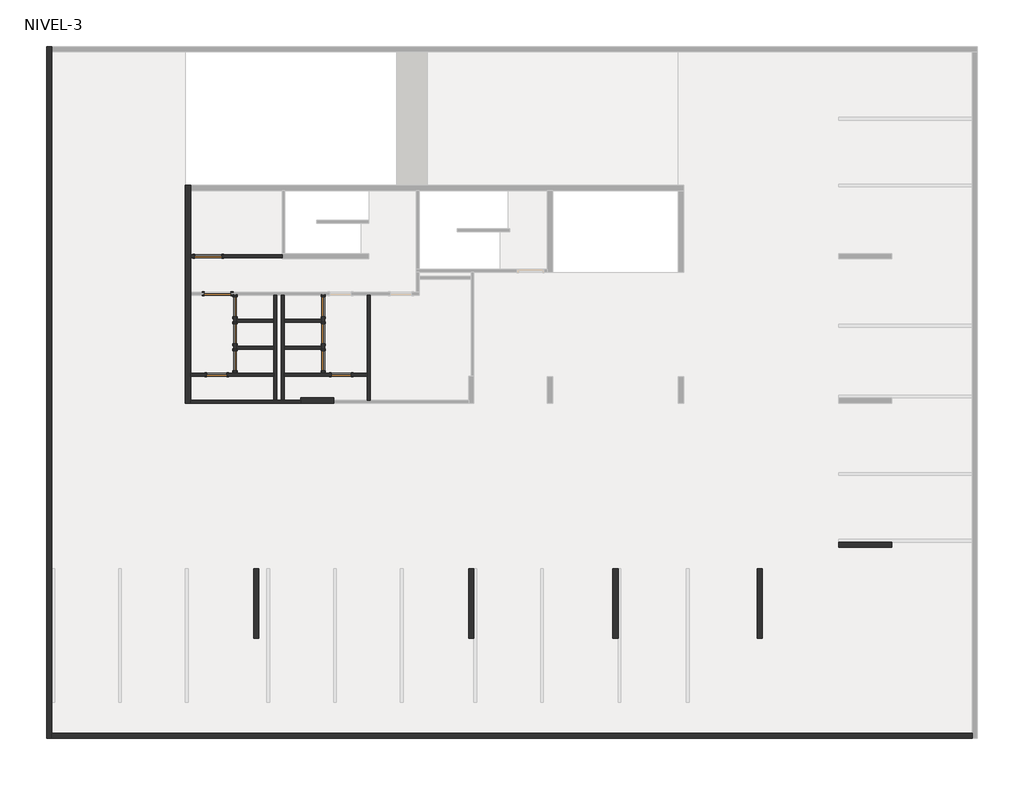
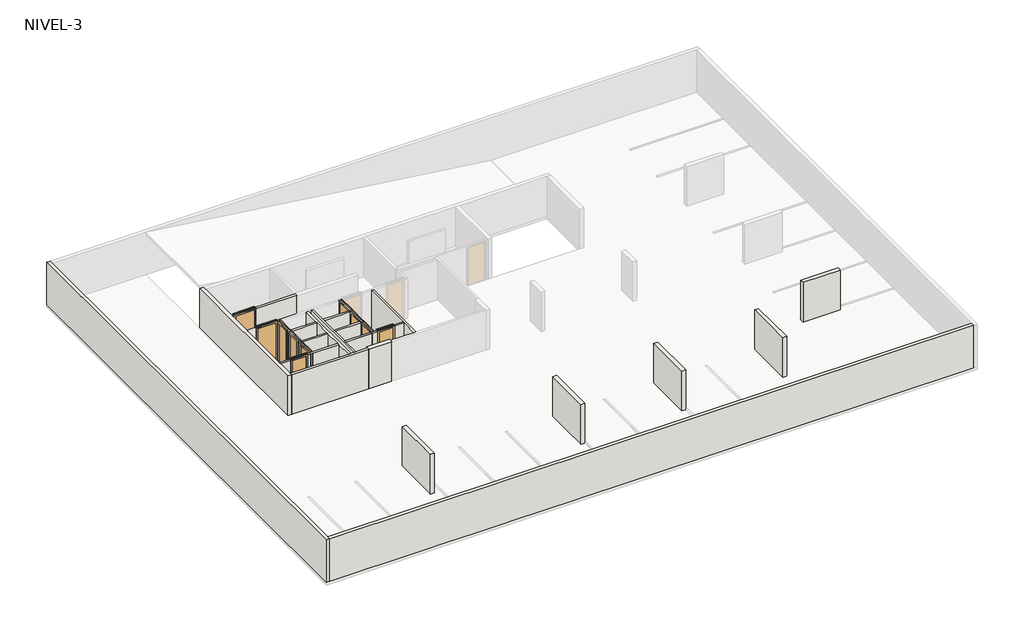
# One storey, part 1 of 2: 28 walls, 10 doors.
"""IFC4 building model written with IfcOpenShell, lengths in millimetres."""

from ifc_helpers import new_model, si_unit, frame, origin, place, context, project, spatial, polyline, outline, extrude, faceted_brep, transform, mapped, element, save
from components import m_single_flush_1000x_225_34d59a64, m_single_flush_1000x_225_7491b799, m_single_flush_750x_225_070f6889, m_single_flush_750x_225_ddc8b89c

model = new_model("IFC4")

# Units and contexts
model_context = context("Model", 3, world=origin())
ifc_project = project(units=[si_unit("LENGTHUNIT", "METRE", prefix="MILLI")], contexts=[model_context])

# Site, building, storey
site = spatial("IfcSite", under=ifc_project)
building = spatial("IfcBuilding", under=site)
storey = spatial("IfcBuildingStorey", under=building, Name="NIVEL-3", Elevation=-9300.0)

# Doors
placement = place(None, origin())
m_single_flush_1000x_225_shape = m_single_flush_1000x_225_34d59a64(model_context)
element("IfcDoor", 1, ObjectType="M_Single-Flush : 1000x 225", at=placement, inside=storey, context=model_context, shape_type="MappedRepresentation", body=[
    mapped(m_single_flush_1000x_225_shape, transform((-22079.3934748, 9128.9139241, -9300.0), x_axis=(1.0, 0.0, 0.0), y_axis=(0.0, 1.0, 0.0), z_axis=(0.0, 0.0, 1.0))),
])
m_single_flush_1000x_225_2_shape = m_single_flush_1000x_225_7491b799(model_context)
element("IfcDoor", 2, ObjectType="M_Single-Flush : 1000x 225", at=placement, inside=storey, context=model_context, shape_type="MappedRepresentation", body=[
    mapped(m_single_flush_1000x_225_2_shape, transform((-22434.3934748, 10533.9139241, -9300.0), x_axis=(-1.0, 0.0, 0.0), y_axis=(0.0, -1.0, 0.0), z_axis=(0.0, 0.0, 1.0))),
])
m_single_flush_750x_225_shape = m_single_flush_750x_225_070f6889(model_context)
element("IfcDoor", 3, ObjectType="M_Single-Flush : 750x 225", at=placement, inside=storey, context=model_context, shape_type="MappedRepresentation", body=[
    mapped(m_single_flush_750x_225_shape, transform((-17449.3934748, 6098.9139241, -9300.0), x_axis=(1.0, 0.0, 0.0), y_axis=(0.0, 1.0, 0.0), z_axis=(0.0, 0.0, 1.0))),
])
element("IfcDoor", 4, ObjectType="M_Single-Flush : 750x 225", at=placement, inside=storey, context=model_context, shape_type="MappedRepresentation", body=[
    mapped(m_single_flush_750x_225_shape, transform((-21429.3934748, 8648.9139241, -9300.0), x_axis=(0.0, 1.0, 0.0), y_axis=(-1.0, 0.0, 0.0), z_axis=(0.0, 0.0, 1.0))),
])
element("IfcDoor", 5, ObjectType="M_Single-Flush : 750x 225", at=placement, inside=storey, context=model_context, shape_type="MappedRepresentation", body=[
    mapped(m_single_flush_750x_225_shape, transform((-21429.3934748, 7638.9139241, -9300.0), x_axis=(0.0, 1.0, 0.0), y_axis=(-1.0, 0.0, 0.0), z_axis=(0.0, 0.0, 1.0))),
])
element("IfcDoor", 6, ObjectType="M_Single-Flush : 750x 225", at=placement, inside=storey, context=model_context, shape_type="MappedRepresentation", body=[
    mapped(m_single_flush_750x_225_shape, transform((-21429.3934748, 6628.9139241, -9300.0), x_axis=(0.0, 1.0, 0.0), y_axis=(-1.0, 0.0, 0.0), z_axis=(0.0, 0.0, 1.0))),
])
m_single_flush_750x_225_2_shape = m_single_flush_750x_225_ddc8b89c(model_context)
element("IfcDoor", 7, ObjectType="M_Single-Flush : 750x 225", at=placement, inside=storey, context=model_context, shape_type="MappedRepresentation", body=[
    mapped(m_single_flush_750x_225_2_shape, transform((-22109.3934748, 6098.9139241, -9300.0), x_axis=(-1.0, 0.0, 0.0), y_axis=(0.0, -1.0, 0.0), z_axis=(0.0, 0.0, 1.0))),
])
element("IfcDoor", 8, ObjectType="M_Single-Flush : 750x 225", at=placement, inside=storey, context=model_context, shape_type="MappedRepresentation", body=[
    mapped(m_single_flush_750x_225_2_shape, transform((-18129.3934748, 8648.9139241, -9300.0), x_axis=(0.0, 1.0, 0.0), y_axis=(-1.0, 0.0, 0.0), z_axis=(0.0, 0.0, 1.0))),
])
element("IfcDoor", 9, ObjectType="M_Single-Flush : 750x 225", at=placement, inside=storey, context=model_context, shape_type="MappedRepresentation", body=[
    mapped(m_single_flush_750x_225_2_shape, transform((-18129.3934748, 7638.9139241, -9300.0), x_axis=(0.0, 1.0, 0.0), y_axis=(-1.0, 0.0, 0.0), z_axis=(0.0, 0.0, 1.0))),
])
element("IfcDoor", 10, ObjectType="M_Single-Flush : 750x 225", at=placement, inside=storey, context=model_context, shape_type="MappedRepresentation", body=[
    mapped(m_single_flush_750x_225_2_shape, transform((-18129.3934748, 6628.9139241, -9300.0), x_axis=(0.0, 1.0, 0.0), y_axis=(-1.0, 0.0, 0.0), z_axis=(0.0, 0.0, 1.0))),
])

# Walls
element("IfcWall", 11, ObjectType="SCV.TI.A.110.090.143.47.1", at=placement, inside=storey, context=model_context, shape_type="Brep", body=[
    faceted_brep([(-18958.5934748, 5143.9139241, -9320.0), (-19589.3934748, 5143.9139241, -9320.0), (-19699.3934748, 5143.9139241, -9320.0), (-19859.3934748, 5143.9139241, -9320.0), (-19969.3934748, 5143.9139241, -9320.0), (-23084.3934748, 5143.9139241, -9320.0), (-23084.3934748, 5143.9139241, -7070.0), (-19969.3934748, 5143.9139241, -7070.0), (-19859.3934748, 5143.9139241, -7070.0), (-19699.3934748, 5143.9139241, -7070.0), (-19589.3934748, 5143.9139241, -7070.0), (-18958.5934748, 5143.9139241, -7070.0), (-18958.5934748, 5033.9139241, -9320.0), (-18958.5934748, 5033.9139241, -7070.0), (-23084.3934748, 5033.9139241, -7070.0), (-23084.3934748, 5033.9139241, -9320.0)], [[[0, 1, 2, 3, 4, 5, 6, 7, 8, 9, 10, 11]], [[12, 13, 14, 15]], [[5, 4, 3, 2, 1, 0, 12, 15]], [[11, 10, 9, 8, 7, 6, 14, 13]], [[0, 11, 13, 12]], [[6, 5, 15, 14]]]),
])
element("IfcWall", 12, ObjectType="SCV.TI.A.110.090.143.47.1", at=placement, inside=storey, context=model_context, shape_type="Brep", body=[
    faceted_brep([(-19969.3934748, 9073.9139241, -9320.0), (-19969.3934748, 8173.9139241, -9320.0), (-19969.3934748, 8063.9139241, -9320.0), (-19969.3934748, 7163.9139241, -9320.0), (-19969.3934748, 7053.9139241, -9320.0), (-19969.3934748, 6153.9139241, -9320.0), (-19969.3934748, 6043.9139241, -9320.0), (-19969.3934748, 5143.9139241, -9320.0), (-19969.3934748, 5143.9139241, -7070.0), (-19969.3934748, 6043.9139241, -7070.0), (-19969.3934748, 6153.9139241, -7070.0), (-19969.3934748, 7053.9139241, -7070.0), (-19969.3934748, 7163.9139241, -7070.0), (-19969.3934748, 8063.9139241, -7070.0), (-19969.3934748, 8173.9139241, -7070.0), (-19969.3934748, 9073.9139241, -7070.0), (-19859.3934748, 9073.9139241, -9320.0), (-19859.3934748, 9073.9139241, -7070.0), (-19859.3934748, 5143.9139241, -7070.0), (-19859.3934748, 5143.9139241, -9320.0)], [[[0, 1, 2, 3, 4, 5, 6, 7, 8, 9, 10, 11, 12, 13, 14, 15]], [[16, 17, 18, 19]], [[7, 6, 5, 4, 3, 2, 1, 0, 16, 19]], [[15, 14, 13, 12, 11, 10, 9, 8, 18, 17]], [[0, 15, 17, 16]], [[8, 7, 19, 18]]]),
])
element("IfcWall", 13, ObjectType="SCV.TI.A.110.090.143.47.1", at=placement, inside=storey, context=model_context, shape_type="Brep", body=[
    faceted_brep([(-19699.3934748, 9073.9139241, -9320.0), (-19699.3934748, 5143.9139241, -9320.0), (-19699.3934748, 5143.9139241, -7070.0), (-19699.3934748, 9073.9139241, -7070.0), (-19589.3934748, 9073.9139241, -9320.0), (-19589.3934748, 9073.9139241, -7070.0), (-19589.3934748, 8173.9139241, -7070.0), (-19589.3934748, 8063.9139241, -7070.0), (-19589.3934748, 7163.9139241, -7070.0), (-19589.3934748, 7053.9139241, -7070.0), (-19589.3934748, 6153.9139241, -7070.0), (-19589.3934748, 6043.9139241, -7070.0), (-19589.3934748, 5143.9139241, -7070.0), (-19589.3934748, 5143.9139241, -9320.0), (-19589.3934748, 6043.9139241, -9320.0), (-19589.3934748, 6153.9139241, -9320.0), (-19589.3934748, 7053.9139241, -9320.0), (-19589.3934748, 7163.9139241, -9320.0), (-19589.3934748, 8063.9139241, -9320.0), (-19589.3934748, 8173.9139241, -9320.0)], [[[0, 1, 2, 3]], [[4, 5, 6, 7, 8, 9, 10, 11, 12, 13, 14, 15, 16, 17, 18, 19]], [[1, 0, 4, 19, 18, 17, 16, 15, 14, 13]], [[3, 2, 12, 11, 10, 9, 8, 7, 6, 5]], [[0, 3, 5, 4]], [[2, 1, 13, 12]]]),
])
element("IfcWall", 14, ObjectType="SCV.TI.A.110.090.143.47.1", at=placement, inside=storey, context=model_context, shape_type="Brep", body=[
    faceted_brep([(-16474.3934748, 9073.9139241, -9320.0), (-16474.3934748, 6153.9139241, -9320.0), (-16474.3934748, 6043.9139241, -9320.0), (-16474.3934748, 5143.9139241, -9320.0), (-16474.3934748, 5143.9139241, -7070.0), (-16474.3934748, 6043.9139241, -7070.0), (-16474.3934748, 6153.9139241, -7070.0), (-16474.3934748, 9073.9139241, -7070.0), (-16364.3934748, 9073.9139241, -9320.0), (-16364.3934748, 9073.9139241, -7070.0), (-16364.3934748, 5143.9139241, -7070.0), (-16364.3934748, 5143.9139241, -9320.0)], [[[0, 1, 2, 3, 4, 5, 6, 7]], [[8, 9, 10, 11]], [[3, 2, 1, 0, 8, 11]], [[7, 6, 5, 4, 10, 9]], [[0, 7, 9, 8]], [[4, 3, 11, 10]]]),
])
element("IfcWall", 15, ObjectType="SCV.TI.A.110.090.143.47.1", at=placement, inside=storey, context=model_context, shape_type="SweptSolid", body=[
    extrude(outline(polyline([(-9320.0, -19668.5934748), (-7070.0, -19668.5934748), (-7070.0, -23084.3934748), (-9320.0, -23084.3934748), (-9320.0, -19668.5934748)]), holes=[polyline([(-9300.0, -21934.3934748), (-9300.0, -22934.3934748), (-7100.0, -22934.3934748), (-7100.0, -21934.3934748), (-9300.0, -21934.3934748)])]), frame((0.0, 10478.9139241, 0.0), z_axis=(0.0, 1.0, 0.0), x_axis=(0.0, 0.0, 1.0)), (0.0, 0.0, 1.0), 110.0),
])
element("IfcWall", 16, ObjectType="SCV.TI.A.110.090.143.47.1", at=placement, inside=storey, context=model_context, shape_type="SweptSolid", body=[
    extrude(outline(polyline([(-9320.0, -23084.3934748), (-9320.0, -19969.3934748), (-7070.0, -19969.3934748), (-7070.0, -23084.3934748), (-9320.0, -23084.3934748)]), holes=[polyline([(-9300.0, -21734.3934748), (-9300.0, -22484.3934748), (-7100.0, -22484.3934748), (-7100.0, -21734.3934748), (-9300.0, -21734.3934748)])]), frame((0.0, 6043.9139241, 0.0), z_axis=(0.0, 1.0, 0.0), x_axis=(0.0, 0.0, 1.0)), (0.0, 0.0, 1.0), 110.0),
])
element("IfcWall", 17, ObjectType="SCV.TI.A.110.090.143.47.1", at=placement, inside=storey, context=model_context, shape_type="SweptSolid", body=[
    extrude(outline(polyline([(-9320.0, -16474.3934748), (-7070.0, -16474.3934748), (-7070.0, -19589.3934748), (-9320.0, -19589.3934748), (-9320.0, -16474.3934748)]), holes=[polyline([(-9300.0, -17824.3934748), (-7100.0, -17824.3934748), (-7100.0, -17074.3934748), (-9300.0, -17074.3934748), (-9300.0, -17824.3934748)])]), frame((0.0, 6043.9139241, 0.0), z_axis=(0.0, 1.0, 0.0), x_axis=(0.0, 0.0, 1.0)), (0.0, 0.0, 1.0), 110.0),
])
element("IfcWall", 18, ObjectType="SCV.TI.A.110.090.143.47.1", at=placement, inside=storey, context=model_context, shape_type="Brep", body=[
    faceted_brep([(-21484.3934748, 9073.9139241, -9320.0), (-21484.3934748, 8063.9139241, -9320.0), (-21484.3934748, 8063.9139241, -7070.0), (-21484.3934748, 9073.9139241, -7070.0), (-21484.3934748, 8273.9139241, -9300.0), (-21484.3934748, 9023.9139241, -9300.0), (-21484.3934748, 9023.9139241, -7100.0), (-21484.3934748, 8273.9139241, -7100.0), (-21374.3934748, 8063.9139241, -9320.0), (-21374.3934748, 8173.9139241, -9320.0), (-21374.3934748, 9073.9139241, -9320.0), (-21374.3934748, 9073.9139241, -7070.0), (-21374.3934748, 8173.9139241, -7070.0), (-21374.3934748, 8063.9139241, -7070.0), (-21374.3934748, 9023.9139241, -9300.0), (-21374.3934748, 8273.9139241, -9300.0), (-21374.3934748, 8273.9139241, -7100.0), (-21374.3934748, 9023.9139241, -7100.0)], [[[0, 1, 2, 3], [4, 5, 6, 7]], [[8, 9, 10, 11, 12, 13], [14, 15, 16, 17]], [[1, 0, 10, 9, 8]], [[4, 15, 14, 5]], [[6, 17, 16, 7]], [[15, 4, 7, 16]], [[17, 6, 5, 14]], [[2, 1, 8, 13]], [[3, 2, 13, 12, 11]], [[0, 3, 11, 10]]]),
])
element("IfcWall", 19, ObjectType="SCV.TI.A.110.090.143.47.1", at=placement, inside=storey, context=model_context, shape_type="SweptSolid", body=[
    extrude(outline(polyline([(-19969.3934748, 8063.9139241), (-21374.3934748, 8063.9139241), (-21374.3934748, 8173.9139241), (-19969.3934748, 8173.9139241), (-19969.3934748, 8063.9139241)])), frame((0.0, 0.0, -9320.0), z_axis=(0.0, 0.0, 1.0), x_axis=(1.0, 0.0, 0.0)), (0.0, 0.0, 1.0), 2250.0),
])
element("IfcWall", 20, ObjectType="SCV.TI.A.110.090.143.47.1", at=placement, inside=storey, context=model_context, shape_type="Brep", body=[
    faceted_brep([(-21484.3934748, 8063.9139241, -9320.0), (-21484.3934748, 7053.9139241, -9320.0), (-21484.3934748, 7053.9139241, -7070.0), (-21484.3934748, 8063.9139241, -7070.0), (-21484.3934748, 7263.9139241, -9300.0), (-21484.3934748, 8013.9139241, -9300.0), (-21484.3934748, 8013.9139241, -7100.0), (-21484.3934748, 7263.9139241, -7100.0), (-21374.3934748, 7053.9139241, -9320.0), (-21374.3934748, 7163.9139241, -9320.0), (-21374.3934748, 8063.9139241, -9320.0), (-21374.3934748, 8063.9139241, -7070.0), (-21374.3934748, 7163.9139241, -7070.0), (-21374.3934748, 7053.9139241, -7070.0), (-21374.3934748, 8013.9139241, -9300.0), (-21374.3934748, 7263.9139241, -9300.0), (-21374.3934748, 7263.9139241, -7100.0), (-21374.3934748, 8013.9139241, -7100.0)], [[[0, 1, 2, 3], [4, 5, 6, 7]], [[8, 9, 10, 11, 12, 13], [14, 15, 16, 17]], [[1, 0, 10, 9, 8]], [[4, 15, 14, 5]], [[6, 17, 16, 7]], [[15, 4, 7, 16]], [[17, 6, 5, 14]], [[2, 1, 8, 13]], [[0, 3, 11, 10]], [[3, 2, 13, 12, 11]]]),
])
element("IfcWall", 21, ObjectType="SCV.TI.A.110.090.143.47.1", at=placement, inside=storey, context=model_context, shape_type="SweptSolid", body=[
    extrude(outline(polyline([(-19969.3934748, 7053.9139241), (-21374.3934748, 7053.9139241), (-21374.3934748, 7163.9139241), (-19969.3934748, 7163.9139241), (-19969.3934748, 7053.9139241)])), frame((0.0, 0.0, -9320.0), z_axis=(0.0, 0.0, 1.0), x_axis=(1.0, 0.0, 0.0)), (0.0, 0.0, 1.0), 2250.0),
])
element("IfcWall", 22, ObjectType="SCV.TI.A.110.090.143.47.1", at=placement, inside=storey, context=model_context, shape_type="Brep", body=[
    faceted_brep([(-21484.3934748, 7053.9139241, -9320.0), (-21484.3934748, 6043.9139241, -9320.0), (-21484.3934748, 6043.9139241, -7070.0), (-21484.3934748, 7053.9139241, -7070.0), (-21484.3934748, 6253.9139241, -9300.0), (-21484.3934748, 7003.9139241, -9300.0), (-21484.3934748, 7003.9139241, -7100.0), (-21484.3934748, 6253.9139241, -7100.0), (-21374.3934748, 6043.9139241, -9320.0), (-21374.3934748, 6153.9139241, -9320.0), (-21374.3934748, 7053.9139241, -9320.0), (-21374.3934748, 7053.9139241, -7070.0), (-21374.3934748, 6153.9139241, -7070.0), (-21374.3934748, 6043.9139241, -7070.0), (-21374.3934748, 7003.9139241, -9300.0), (-21374.3934748, 6253.9139241, -9300.0), (-21374.3934748, 6253.9139241, -7100.0), (-21374.3934748, 7003.9139241, -7100.0)], [[[0, 1, 2, 3], [4, 5, 6, 7]], [[8, 9, 10, 11, 12, 13], [14, 15, 16, 17]], [[1, 0, 10, 9, 8]], [[4, 15, 14, 5]], [[6, 17, 16, 7]], [[15, 4, 7, 16]], [[17, 6, 5, 14]], [[2, 1, 8, 13]], [[0, 3, 11, 10]], [[3, 2, 13, 12, 11]]]),
])
element("IfcWall", 23, ObjectType="SCV.TI.A.110.090.143.47.1", at=placement, inside=storey, context=model_context, shape_type="SweptSolid", body=[
    extrude(outline(polyline([(-19969.3934748, 6043.9139241), (-21374.3934748, 6043.9139241), (-21374.3934748, 6153.9139241), (-19969.3934748, 6153.9139241), (-19969.3934748, 6043.9139241)])), frame((0.0, 0.0, -9320.0), z_axis=(0.0, 0.0, 1.0), x_axis=(1.0, 0.0, 0.0)), (0.0, 0.0, 1.0), 2250.0),
])
element("IfcWall", 24, ObjectType="SCV.TI.A.110.090.143.47.1", at=placement, inside=storey, context=model_context, shape_type="Brep", body=[
    faceted_brep([(-18184.3934748, 9073.9139241, -9320.0), (-18184.3934748, 8173.9139241, -9320.0), (-18184.3934748, 8063.9139241, -9320.0), (-18184.3934748, 8063.9139241, -7070.0), (-18184.3934748, 8173.9139241, -7070.0), (-18184.3934748, 9073.9139241, -7070.0), (-18184.3934748, 8273.9139241, -9300.0), (-18184.3934748, 9023.9139241, -9300.0), (-18184.3934748, 9023.9139241, -7100.0), (-18184.3934748, 8273.9139241, -7100.0), (-18074.3934748, 8063.9139241, -9320.0), (-18074.3934748, 9073.9139241, -9320.0), (-18074.3934748, 9073.9139241, -7070.0), (-18074.3934748, 8063.9139241, -7070.0), (-18074.3934748, 9023.9139241, -9300.0), (-18074.3934748, 8273.9139241, -9300.0), (-18074.3934748, 8273.9139241, -7100.0), (-18074.3934748, 9023.9139241, -7100.0)], [[[0, 1, 2, 3, 4, 5], [6, 7, 8, 9]], [[10, 11, 12, 13], [14, 15, 16, 17]], [[2, 1, 0, 11, 10]], [[6, 15, 14, 7]], [[8, 17, 16, 9]], [[15, 6, 9, 16]], [[17, 8, 7, 14]], [[3, 2, 10, 13]], [[5, 4, 3, 13, 12]], [[0, 5, 12, 11]]]),
])
element("IfcWall", 25, ObjectType="SCV.TI.A.110.090.143.47.1", at=placement, inside=storey, context=model_context, shape_type="SweptSolid", body=[
    extrude(outline(polyline([(-19589.3934748, 8173.9139241), (-18184.3934748, 8173.9139241), (-18184.3934748, 8063.9139241), (-19589.3934748, 8063.9139241), (-19589.3934748, 8173.9139241)])), frame((0.0, 0.0, -9320.0), z_axis=(0.0, 0.0, 1.0), x_axis=(1.0, 0.0, 0.0)), (0.0, 0.0, 1.0), 2250.0),
])
element("IfcWall", 26, ObjectType="SCV.TI.A.110.090.143.47.1", at=placement, inside=storey, context=model_context, shape_type="Brep", body=[
    faceted_brep([(-18184.3934748, 8063.9139241, -9320.0), (-18184.3934748, 7163.9139241, -9320.0), (-18184.3934748, 7053.9139241, -9320.0), (-18184.3934748, 7053.9139241, -7070.0), (-18184.3934748, 7163.9139241, -7070.0), (-18184.3934748, 8063.9139241, -7070.0), (-18184.3934748, 7263.9139241, -9300.0), (-18184.3934748, 8013.9139241, -9300.0), (-18184.3934748, 8013.9139241, -7100.0), (-18184.3934748, 7263.9139241, -7100.0), (-18074.3934748, 7053.9139241, -9320.0), (-18074.3934748, 8063.9139241, -9320.0), (-18074.3934748, 8063.9139241, -7070.0), (-18074.3934748, 7053.9139241, -7070.0), (-18074.3934748, 8013.9139241, -9300.0), (-18074.3934748, 7263.9139241, -9300.0), (-18074.3934748, 7263.9139241, -7100.0), (-18074.3934748, 8013.9139241, -7100.0)], [[[0, 1, 2, 3, 4, 5], [6, 7, 8, 9]], [[10, 11, 12, 13], [14, 15, 16, 17]], [[2, 1, 0, 11, 10]], [[6, 15, 14, 7]], [[8, 17, 16, 9]], [[15, 6, 9, 16]], [[17, 8, 7, 14]], [[3, 2, 10, 13]], [[0, 5, 12, 11]], [[5, 4, 3, 13, 12]]]),
])
element("IfcWall", 27, ObjectType="SCV.TI.A.110.090.143.47.1", at=placement, inside=storey, context=model_context, shape_type="SweptSolid", body=[
    extrude(outline(polyline([(-19589.3934748, 7163.9139241), (-18184.3934748, 7163.9139241), (-18184.3934748, 7053.9139241), (-19589.3934748, 7053.9139241), (-19589.3934748, 7163.9139241)])), frame((0.0, 0.0, -9320.0), z_axis=(0.0, 0.0, 1.0), x_axis=(1.0, 0.0, 0.0)), (0.0, 0.0, 1.0), 2250.0),
])
element("IfcWall", 28, ObjectType="SCV.TI.A.110.090.143.47.1", at=placement, inside=storey, context=model_context, shape_type="Brep", body=[
    faceted_brep([(-18184.3934748, 7053.9139241, -9320.0), (-18184.3934748, 6153.9139241, -9320.0), (-18184.3934748, 6043.9139241, -9320.0), (-18184.3934748, 6043.9139241, -7070.0), (-18184.3934748, 6153.9139241, -7070.0), (-18184.3934748, 7053.9139241, -7070.0), (-18184.3934748, 6253.9139241, -9300.0), (-18184.3934748, 7003.9139241, -9300.0), (-18184.3934748, 7003.9139241, -7100.0), (-18184.3934748, 6253.9139241, -7100.0), (-18074.3934748, 6043.9139241, -9320.0), (-18074.3934748, 7053.9139241, -9320.0), (-18074.3934748, 7053.9139241, -7070.0), (-18074.3934748, 6043.9139241, -7070.0), (-18074.3934748, 7003.9139241, -9300.0), (-18074.3934748, 6253.9139241, -9300.0), (-18074.3934748, 6253.9139241, -7100.0), (-18074.3934748, 7003.9139241, -7100.0)], [[[0, 1, 2, 3, 4, 5], [6, 7, 8, 9]], [[10, 11, 12, 13], [14, 15, 16, 17]], [[2, 1, 0, 11, 10]], [[6, 15, 14, 7]], [[8, 17, 16, 9]], [[15, 6, 9, 16]], [[17, 8, 7, 14]], [[3, 2, 10, 13]], [[0, 5, 12, 11]], [[5, 4, 3, 13, 12]]]),
])
element("IfcWall", 29, ObjectType="SCV.TI.A.110.090.143.47.1", at=placement, inside=storey, context=model_context, shape_type="SweptSolid", body=[
    extrude(outline(polyline([(-19589.3934748, 6153.9139241), (-18184.3934748, 6153.9139241), (-18184.3934748, 6043.9139241), (-19589.3934748, 6043.9139241), (-19589.3934748, 6153.9139241)])), frame((0.0, 0.0, -9320.0), z_axis=(0.0, 0.0, 1.0), x_axis=(1.0, 0.0, 0.0)), (0.0, 0.0, 1.0), 2250.0),
])
element("IfcWall", 30, ObjectType="HA-200mm", at=placement, inside=storey, context=model_context, shape_type="Brep", body=[
    faceted_brep([(-28284.3934748, -7516.0860759, -9320.0), (-28284.3934748, -7316.0860759, -9320.0), (-28284.3934748, 18184.7139241, -9320.0), (-28284.3934748, 18384.7139241, -9320.0), (-28284.3934748, 18384.7139241, -6920.0), (-28284.3934748, 18184.7139241, -6920.0), (-28284.3934748, -7316.0860759, -6920.0), (-28284.3934748, -7516.0860759, -6920.0), (-28484.3934748, -7516.0860759, -9320.0), (-28484.3934748, -7516.0860759, -6920.0), (-28484.3934748, 18384.7139241, -6920.0), (-28484.3934748, 18384.7139241, -9320.0)], [[[0, 1, 2, 3, 4, 5, 6, 7]], [[8, 9, 10, 11]], [[3, 2, 1, 0, 8, 11]], [[7, 6, 5, 4, 10, 9]], [[4, 3, 11, 10]], [[0, 7, 9, 8]]]),
])
element("IfcWall", 31, ObjectType="HA-200mm", at=placement, inside=storey, context=model_context, shape_type="SweptSolid", body=[
    extrude(outline(polyline([(-28284.3934748, -7316.0860759), (6166.4065252, -7316.0860759), (6166.4065252, -7516.0860759), (-28284.3934748, -7516.0860759), (-28284.3934748, -7316.0860759)])), frame((0.0, 0.0, -9320.0), z_axis=(0.0, 0.0, 1.0), x_axis=(1.0, 0.0, 0.0)), (0.0, 0.0, 1.0), 2400.0),
])
element("IfcWall", 32, ObjectType="HA-200mm", at=placement, inside=storey, context=model_context, shape_type="Brep", body=[
    faceted_brep([(-23084.3934748, 5033.9139241, -9320.0), (-23084.3934748, 5143.9139241, -9320.0), (-23084.3934748, 6043.9139241, -9320.0), (-23084.3934748, 6153.9139241, -9320.0), (-23084.3934748, 9073.9139241, -9320.0), (-23084.3934748, 9183.9139241, -9320.0), (-23084.3934748, 10478.9139241, -9320.0), (-23084.3934748, 10588.9139241, -9320.0), (-23084.3934748, 12984.7139241, -9320.0), (-23084.3934748, 13184.7139241, -9320.0), (-23084.3934748, 13184.7139241, -7070.0), (-23084.3934748, 12984.7139241, -7070.0), (-23084.3934748, 10588.9139241, -7070.0), (-23084.3934748, 10478.9139241, -7070.0), (-23084.3934748, 9183.9139241, -7070.0), (-23084.3934748, 9073.9139241, -7070.0), (-23084.3934748, 6153.9139241, -7070.0), (-23084.3934748, 6043.9139241, -7070.0), (-23084.3934748, 5143.9139241, -7070.0), (-23084.3934748, 5033.9139241, -7070.0), (-23284.3934748, 13184.7139241, -9320.0), (-23284.3934748, 5033.9139241, -9320.0), (-23284.3934748, 5033.9139241, -7070.0), (-23284.3934748, 13184.7139241, -7070.0)], [[[0, 1, 2, 3, 4, 5, 6, 7, 8, 9, 10, 11, 12, 13, 14, 15, 16, 17, 18, 19]], [[20, 21, 22, 23]], [[9, 8, 7, 6, 5, 4, 3, 2, 1, 0, 21, 20]], [[19, 18, 17, 16, 15, 14, 13, 12, 11, 10, 23, 22]], [[10, 9, 20, 23]], [[0, 19, 22, 21]]]),
])
element("IfcWall", 33, ObjectType="HA-200mm", at=placement, inside=storey, context=model_context, shape_type="SweptSolid", body=[
    extrude(outline(polyline([(-12683.5934748, -3766.0860759), (-12683.5934748, -1166.0860759), (-12483.5934748, -1166.0860759), (-12483.5934748, -3766.0860759), (-12683.5934748, -3766.0860759)])), frame((0.0, 0.0, -9320.0), z_axis=(0.0, 0.0, 1.0), x_axis=(1.0, 0.0, 0.0)), (0.0, 0.0, 1.0), 2250.0),
])
element("IfcWall", 34, ObjectType="HA-200mm", at=placement, inside=storey, context=model_context, shape_type="SweptSolid", body=[
    extrude(outline(polyline([(-7283.5996757, -3766.0860759), (-7283.5996757, -1166.0860759), (-7083.5996757, -1166.0860759), (-7083.5996757, -3766.0860759), (-7283.5996757, -3766.0860759)])), frame((0.0, 0.0, -9320.0), z_axis=(0.0, 0.0, 1.0), x_axis=(1.0, 0.0, 0.0)), (0.0, 0.0, 1.0), 2250.0),
])
element("IfcWall", 35, ObjectType="HA-200mm", at=placement, inside=storey, context=model_context, shape_type="SweptSolid", body=[
    extrude(outline(polyline([(-1883.5996757, -3766.0860759), (-1883.5996757, -1166.0860759), (-1683.5996757, -1166.0860759), (-1683.5996757, -3766.0860759), (-1883.5996757, -3766.0860759)])), frame((0.0, 0.0, -9320.0), z_axis=(0.0, 0.0, 1.0), x_axis=(1.0, 0.0, 0.0)), (0.0, 0.0, 1.0), 2250.0),
])
element("IfcWall", 36, ObjectType="HA-200mm", at=placement, inside=storey, context=model_context, shape_type="SweptSolid", body=[
    extrude(outline(polyline([(3166.4065252, -366.0860759), (1166.4065252, -366.0860759), (1166.4065252, -166.0860759), (3166.4065252, -166.0860759), (3166.4065252, -366.0860759)])), frame((0.0, 0.0, -9320.0), z_axis=(0.0, 0.0, 1.0), x_axis=(1.0, 0.0, 0.0)), (0.0, 0.0, 1.0), 2250.0),
])
element("IfcWall", 37, ObjectType="HA-200mm", at=placement, inside=storey, context=model_context, shape_type="Brep", body=[
    faceted_brep([(-17733.587274, 5233.9139241, -9320.0), (-18958.5934748, 5233.9139241, -9320.0), (-18958.5934748, 5233.9139241, -7070.0), (-17733.587274, 5233.9139241, -7070.0), (-17733.587274, 5033.9139241, -9320.0), (-17733.587274, 5033.9139241, -7070.0), (-18958.5934748, 5033.9139241, -7070.0), (-18958.5934748, 5033.9139241, -9320.0), (-17733.587274, 5143.9139241, -9320.0), (-18958.5934748, 5143.9139241, -9320.0), (-18958.5934748, 5143.9139241, -7070.0), (-17733.587274, 5143.9139241, -7070.0)], [[[0, 1, 2, 3]], [[4, 5, 6, 7]], [[1, 0, 8, 4, 7, 9]], [[2, 1, 9, 7, 6, 10]], [[3, 2, 10, 6, 5, 11]], [[0, 3, 11, 5, 4, 8]]]),
])
element("IfcWall", 38, ObjectType="HA-200mm", at=placement, inside=storey, context=model_context, shape_type="SweptSolid", body=[
    extrude(outline(polyline([(-20733.5934748, -3766.0860759), (-20733.5934748, -1166.0860759), (-20533.5934748, -1166.0860759), (-20533.5934748, -3766.0860759), (-20733.5934748, -3766.0860759)])), frame((0.0, 0.0, -9320.0), z_axis=(0.0, 0.0, 1.0), x_axis=(1.0, 0.0, 0.0)), (0.0, 0.0, 1.0), 2250.0),
])

save(model, "model.ifc")
